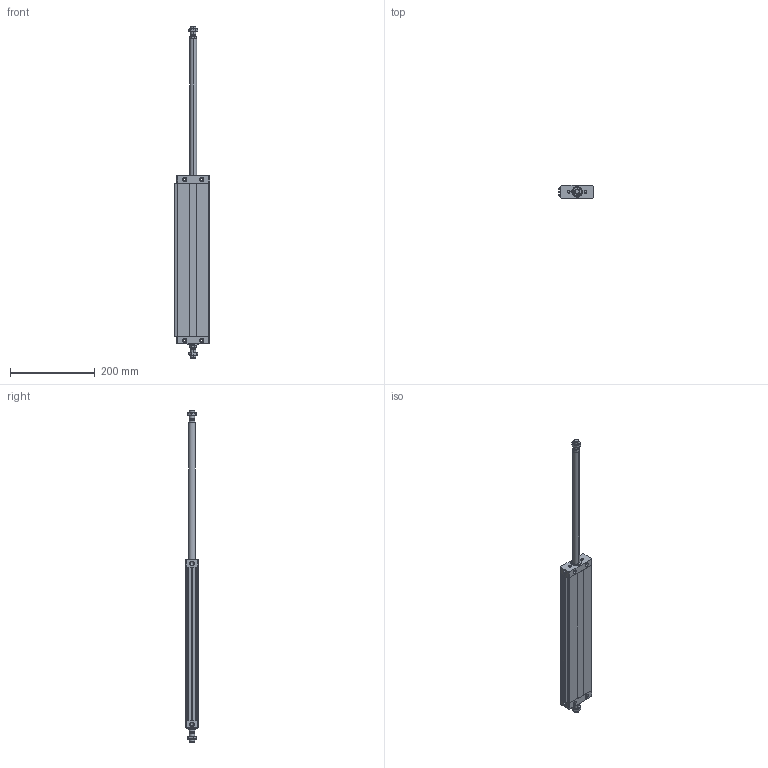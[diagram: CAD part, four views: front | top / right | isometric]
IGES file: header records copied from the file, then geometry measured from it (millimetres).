
Global section: file name: No Iges File Name specified; native system: Autodesk Inventor 2011; preprocessor: AutoDesk Inventor Iges Exporter R2011; author: airolcr1; date: 20101213.153251; units: millimetre
Bounding box: 82.5 x 30 x 782 mm (x, y, z)
Volume: 607133.4 mm3; surface area: 216491.8 mm2
Topology: 6 solids, 6 shells, 276 faces, 652 edges, 396 vertices
Faces by surface type: bspline 110, plane 98, cone 36, cylinder 18, revolution 14
